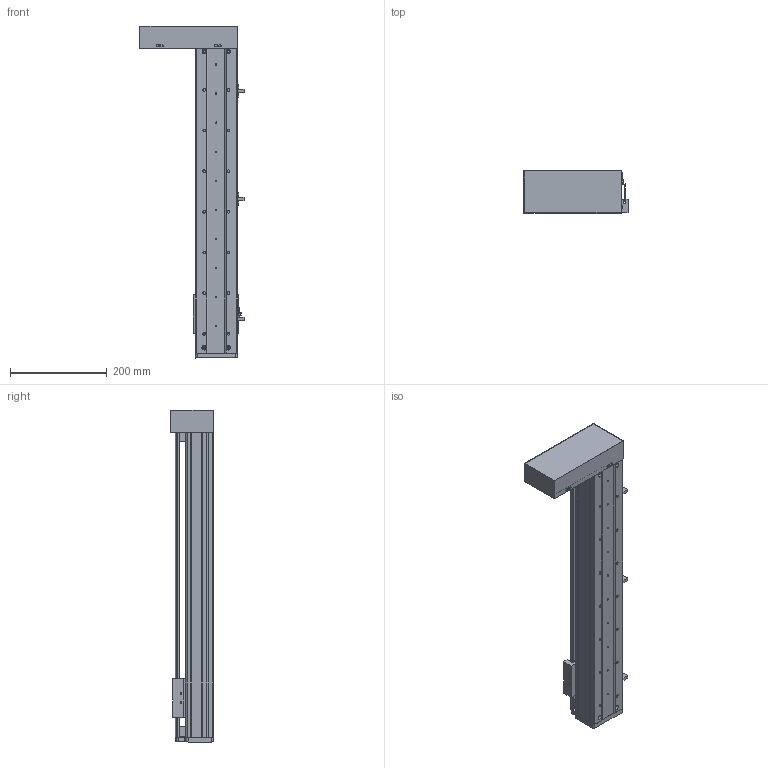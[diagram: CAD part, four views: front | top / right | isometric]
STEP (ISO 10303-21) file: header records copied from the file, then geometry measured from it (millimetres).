
FILE_DESCRIPTION (( 'STEP AP214' ), '1' );
FILE_NAME ('CF86-C-450-FWL.STEP', '2020-01-15T08:30:26', ( '微软用户' ), ( '微软中国' ), 'SwSTEP 2.0', 'SolidWorks 2016', '' );
FILE_SCHEMA (( 'AUTOMOTIVE_DESIGN' ));
Length unit declared in the file: millimetre
Products named in the file (13): 嫖萇羲壽; 75-86-95癹弇羲壽覜茼え; CF86肮祭湍欶酘殏; CF86左折弯电机安装板; CF86賑輸; 02 86盓傅釱; 01 86嘐隅釱; EGW15CA賑輸; EGR15-450; 86臏倰第-450; 86裔啣-450; 86耜啣; CF86-C-450-FWL
Assembly tree (14 placements, depth 2):
  CF86-C-450-FWL
    86耜啣
    86裔啣-450
    86臏倰第-450
    EGR15-450
    EGW15CA賑輸
    01 86嘐隅釱
    02 86盓傅釱
    CF86賑輸
    CF86左折弯电机安装板
    CF86肮祭湍欶酘殏
    75-86-95癹弇羲壽覜茼え
    嫖萇羲壽  x3
Bounding box: 215.22 x 88 x 686 mm (x, y, z)
Volume: 1761389.6 mm3; surface area: 698506.4 mm2
Topology: 14 solids, 14 shells, 693 faces, 1883 edges, 1246 vertices
Faces by surface type: plane 368, cylinder 317, cone 8
Entity records: 22250 total; most frequent: CARTESIAN_POINT 3786, DIRECTION 3629, ORIENTED_EDGE 3462, EDGE_CURVE 1731, AXIS2_PLACEMENT_3D 1285, VERTEX_POINT 1150, LINE 1059, VECTOR 1059
